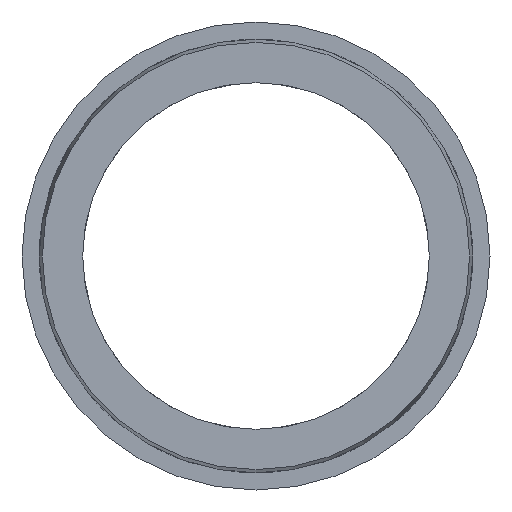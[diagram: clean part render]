
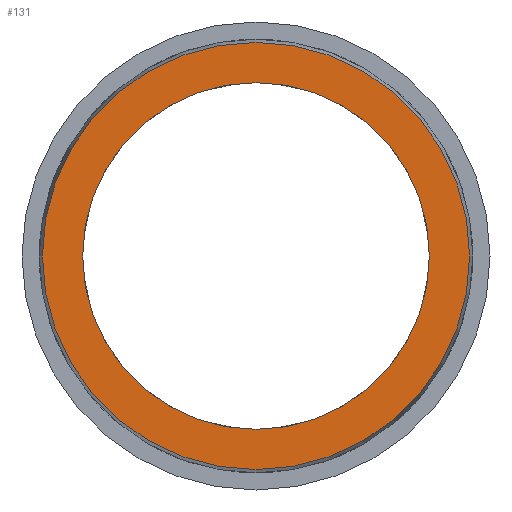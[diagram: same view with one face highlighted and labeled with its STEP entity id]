
A CAD part, front view. The second image highlights one B-rep face of the part: STEP entity #131.
In plain terms, the highlighted planar face has unit normal (0, -1, 0).
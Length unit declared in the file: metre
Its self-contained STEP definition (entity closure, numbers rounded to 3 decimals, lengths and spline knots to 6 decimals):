
#131 = ADVANCED_FACE( '', ( #393, #394 ), #395, .F. );
#393 = FACE_BOUND( '', #657, .T. );
#394 = FACE_OUTER_BOUND( '', #658, .T. );
#395 = PLANE( '', #659 );
#657 = EDGE_LOOP( '', ( #1029 ) );
#658 = EDGE_LOOP( '', ( #1030 ) );
#659 = AXIS2_PLACEMENT_3D( '', #1031, #1032, #1033 );
#1029 = ORIENTED_EDGE( '', *, *, #1090, .F. );
#1030 = ORIENTED_EDGE( '', *, *, #1141, .T. );
#1031 = CARTESIAN_POINT( '', ( -0.061618, 0., 0. ) );
#1032 = DIRECTION( '', ( 0., 1., 0. ) );
#1033 = DIRECTION( '', ( 0., 0., 1. ) );
#1090 = EDGE_CURVE( '', #1245, #1245, #1246, .T. );
#1141 = EDGE_CURVE( '', #1347, #1347, #1348, .T. );
#1245 = VERTEX_POINT( '', #4909 );
#1246 = CIRCLE( '', #4910, 0.05 );
#1347 = VERTEX_POINT( '', #8311 );
#1348 = CIRCLE( '', #8312, 0.061618 );
#4909 = CARTESIAN_POINT( '', ( 0., 0., -0.05 ) );
#4910 = AXIS2_PLACEMENT_3D( '', #8324, #8325, #8326 );
#8311 = CARTESIAN_POINT( '', ( 0., 0., -0.061618 ) );
#8312 = AXIS2_PLACEMENT_3D( '', #8333, #8334, #8335 );
#8324 = CARTESIAN_POINT( '', ( 0., 0., 0. ) );
#8325 = DIRECTION( '', ( 0., -1., 0. ) );
#8326 = DIRECTION( '', ( 0., 0., -1. ) );
#8333 = CARTESIAN_POINT( '', ( 0., 0., 0. ) );
#8334 = DIRECTION( '', ( 0., -1., 0. ) );
#8335 = DIRECTION( '', ( 0., 0., -1. ) );
